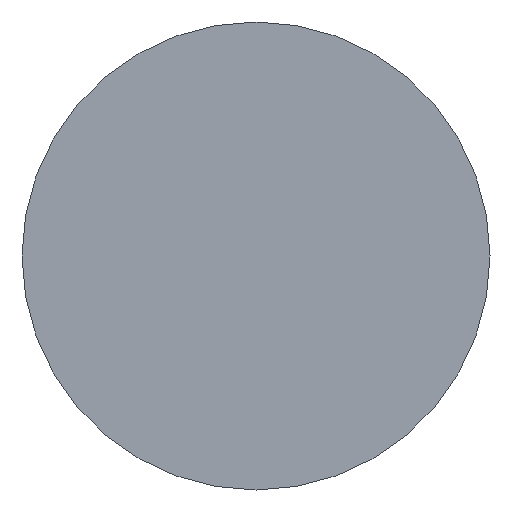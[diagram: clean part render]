
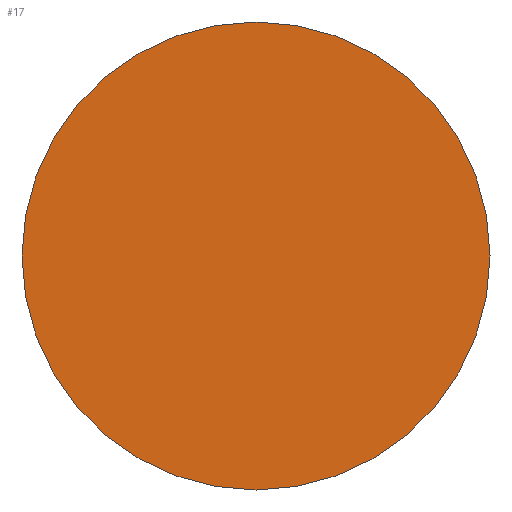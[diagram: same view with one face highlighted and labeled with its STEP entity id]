
A CAD part, left-side view. The second image highlights one B-rep face of the part: STEP entity #17.
In plain terms, the highlighted planar face has unit normal (-1, 0, 0).
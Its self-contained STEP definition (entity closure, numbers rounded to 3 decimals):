
#17 = ADVANCED_FACE('',(#18),#31,.F.);
#18 = FACE_BOUND('',#19,.T.);
#19 = EDGE_LOOP('',(#20));
#20 = ORIENTED_EDGE('',*,*,#21,.F.);
#21 = EDGE_CURVE('',#22,#22,#24,.T.);
#22 = VERTEX_POINT('',#23);
#23 = CARTESIAN_POINT('',(0.,28.,0.));
#24 = SURFACE_CURVE('',#25,(#30,#42),.PCURVE_S1.);
#25 = CIRCLE('',#26,28.);
#26 = AXIS2_PLACEMENT_3D('',#27,#28,#29);
#27 = CARTESIAN_POINT('',(0.,0.,0.));
#28 = DIRECTION('',(1.,0.,0.));
#29 = DIRECTION('',(-0.,1.,0.));
#30 = PCURVE('',#31,#36);
#31 = PLANE('',#32);
#32 = AXIS2_PLACEMENT_3D('',#33,#34,#35);
#33 = CARTESIAN_POINT('',(0.,0.,0.));
#34 = DIRECTION('',(1.,0.,0.));
#35 = DIRECTION('',(-0.,1.,0.));
#36 = DEFINITIONAL_REPRESENTATION('',(#37),#41);
#37 = CIRCLE('',#38,28.);
#38 = AXIS2_PLACEMENT_2D('',#39,#40);
#39 = CARTESIAN_POINT('',(0.,0.));
#40 = DIRECTION('',(1.,-0.));
#41 = ( GEOMETRIC_REPRESENTATION_CONTEXT(2) 
PARAMETRIC_REPRESENTATION_CONTEXT() REPRESENTATION_CONTEXT('2D SPACE',''
  ) );
#42 = PCURVE('',#43,#48);
#43 = CYLINDRICAL_SURFACE('',#44,28.);
#44 = AXIS2_PLACEMENT_3D('',#45,#46,#47);
#45 = CARTESIAN_POINT('',(0.,0.,0.));
#46 = DIRECTION('',(1.,0.,0.));
#47 = DIRECTION('',(-0.,1.,0.));
#48 = DEFINITIONAL_REPRESENTATION('',(#49),#53);
#49 = LINE('',#50,#51);
#50 = CARTESIAN_POINT('',(0.,0.));
#51 = VECTOR('',#52,1.);
#52 = DIRECTION('',(1.,0.));
#53 = ( GEOMETRIC_REPRESENTATION_CONTEXT(2) 
PARAMETRIC_REPRESENTATION_CONTEXT() REPRESENTATION_CONTEXT('2D SPACE',''
  ) );
